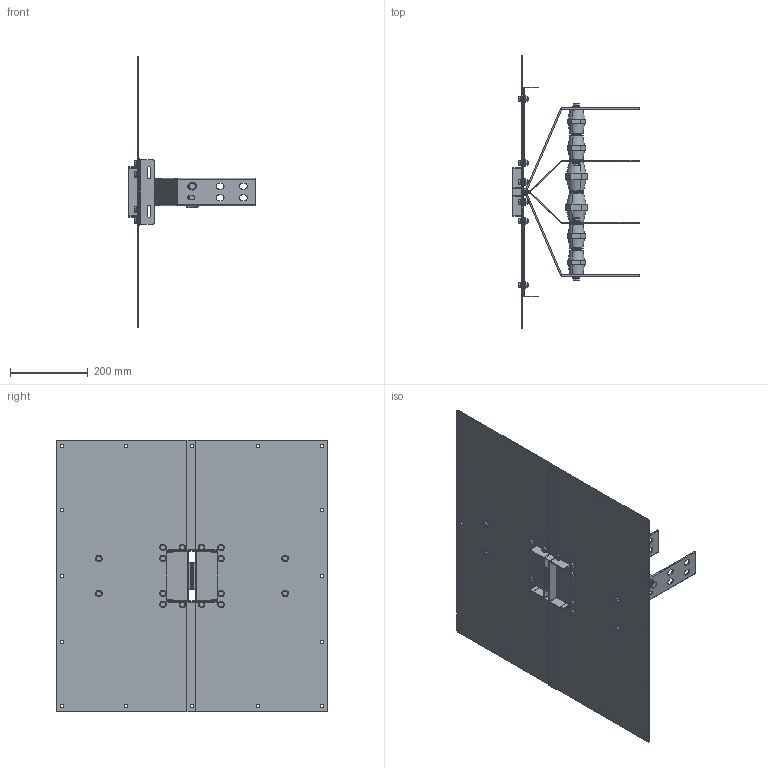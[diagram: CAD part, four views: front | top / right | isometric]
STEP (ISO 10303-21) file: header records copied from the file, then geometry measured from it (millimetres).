
FILE_DESCRIPTION(('CATIA V5 STEP','CAx-IF Rec.Pracs.--- Model Styling and Organization---1.5--- 2016-08-15','CAx-IF Rec.Pracs.---Supplemental Geometry---1.0---2011-11-01','CAx-IF Rec.Pracs.--- Composite Materials ---1.1---2010-07-15'),'2;1');
FILE_NAME('K:\COSCN 2011\32372311_RiduzioneSezioniBarre\03_Studio\__Modelli semplificati\XCP_UB semplificati per studi\XCP-HP_UB_4C_Pe_CRT_Assieme\Cu\XCP-HP_UB_4C_Pe_S_Assieme - 800A Cu_CRT\XCP-HP_UB_4C_Pe_S_Assieme - 800A Cu_CRT.stp','2025-05-12T10:31:58+00:00',('Utente Bticino'),('Bticino S.p.A.'),'CATIA Version 5-6 Release 2020 SP5','CATIA V5 STEP AP214 v2','none');
FILE_SCHEMA(('AUTOMOTIVE_DESIGN { 1 0 10303 214 1 1 1 1 }'));
Length unit declared in the file: millimetre
Products named in the file (20): XCP-HP_UB_4C_Pe_S_Assieme - 800A Cu_CRT; XCP-HP_UB_4C_Pe_S_PaccoBarre_800A Cu_CRT; XCP-HP_UB_4C_Pe_S_Lamiere_800A Cu_CRT; Ass_M10x25.1; 00740025 M10x25 UNI5739; Rondella spac M10 UNI 1751; 00750005; 130006; 130184; 130006_1; 130184_1; 130006_2; 130006_3; 00750033 - RONDELLA PIANA 4.8 D.12 UNI 6592 ZB; 00750033 - RONDELLA PIANA 4.8 D.12 UNI 6592 ZB_1; 00750033 - RONDELLA PIANA 4.8 D.12 UNI 6592 ZB_2; Viteria UB H130; Ass Vite+dado M8; Steel hex flanged SCREW M12x16; Steel hex flanged NUT M8
Assembly tree (39 placements, depth 4):
  XCP-HP_UB_4C_Pe_S_Assieme - 800A Cu_CRT
    XCP-HP_UB_4C_Pe_S_PaccoBarre_800A Cu_CRT
    XCP-HP_UB_4C_Pe_S_Lamiere_800A Cu_CRT
    Ass_M10x25.1  x6
      00740025 M10x25 UNI5739
      Rondella spac M10 UNI 1751
      00750005
    130006
    130184
    130006_1
    130184_1
    130006_2
    130006_3
    00750033 - RONDELLA PIANA 4.8 D.12 UNI 6592 ZB
    00750033 - RONDELLA PIANA 4.8 D.12 UNI 6592 ZB_1
    00750033 - RONDELLA PIANA 4.8 D.12 UNI 6592 ZB_2
    Viteria UB H130
      Ass Vite+dado M8  x16
        Steel hex flanged SCREW M12x16
        Steel hex flanged NUT M8
Bounding box: 325 x 700 x 700 mm (x, y, z)
Volume: 2180008.7 mm3; surface area: 1637457.7 mm2
Topology: 73 solids, 73 shells, 1660 faces, 3976 edges, 2500 vertices
Faces by surface type: plane 728, cylinder 492, cone 200, bspline 176, torus 64
Entity records: 23768 total; most frequent: CARTESIAN_POINT 5192, ORIENTED_EDGE 3944, DIRECTION 3114, EDGE_CURVE 1972, AXIS2_PLACEMENT_3D 1368, VERTEX_POINT 1260, VECTOR 1128, LINE 1128
